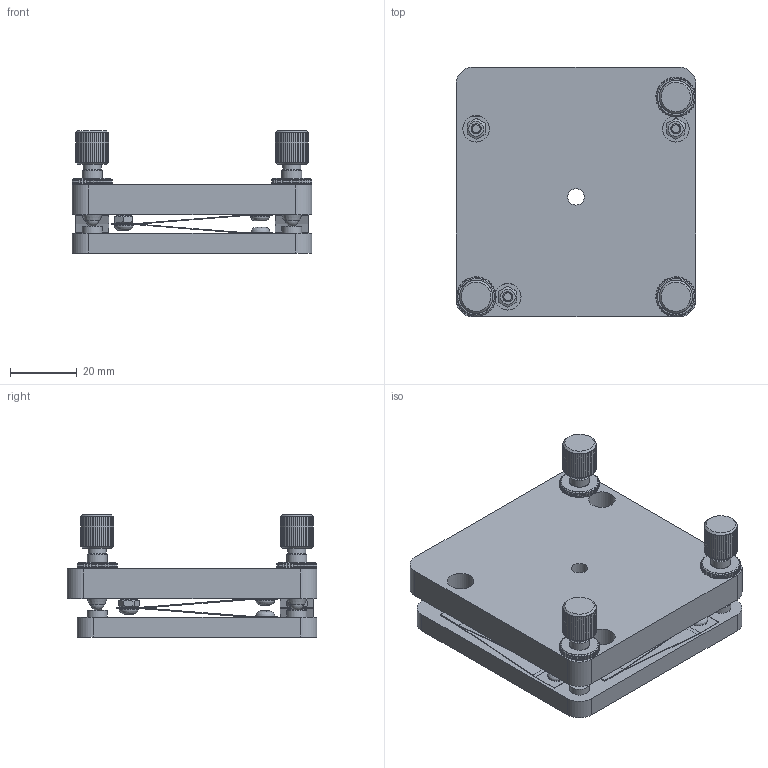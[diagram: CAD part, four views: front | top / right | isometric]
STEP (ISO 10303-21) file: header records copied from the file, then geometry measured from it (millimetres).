
FILE_DESCRIPTION(/* description */ (''),/* implementation_level */ '2;1');
FILE_NAME(/* name */ 'C:\Users\dsgn39\Desktop\Internetui\5OM60-3-9S7C\5OM60-3-9S7C.stp',/* time_stamp */ '2017-08-03T09:39:52+03:00',/* author */ ('dsgn39'),/* organization */ (''),/* preprocessor_version */ 'ST-DEVELOPER v15.2',/* originating_system */ 'Autodesk Inventor 2014',/* authorisation */ '');
FILE_SCHEMA (('AUTOMOTIVE_DESIGN { 1 0 10303 214 3 1 1 }'));
Products named in the file (2): Part2; Assembly2
Bounding box: 72 x 75 x 36.72 mm (x, y, z)
Surface area: 34390.7 mm2
Topology: 11 solids, 15 shells, 1733 faces, 4373 edges, 2713 vertices
Faces by surface type: plane 1155, cylinder 397, bspline 125, cone 48, sphere 8
Full cylindrical faces by diameter (mm): 3 x12, 3.2 x9, 3.242 x4, 4 x6, 4.917 x13, 5.4 x3, 5.7 x9, 6 x9, 6.1 x3, 8 x3, 8.917 x3
Entity records: 50556 total; most frequent: CARTESIAN_POINT 11413, ORIENTED_EDGE 8300, DIRECTION 7996, EDGE_CURVE 4147, AXIS2_PLACEMENT_3D 2991, VERTEX_POINT 2620, LINE 2014, VECTOR 2014
